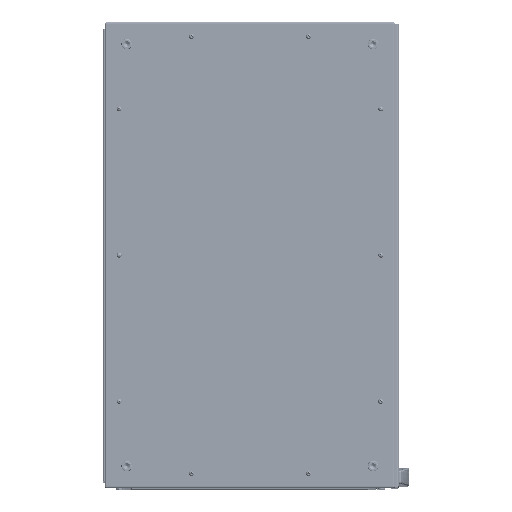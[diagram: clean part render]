
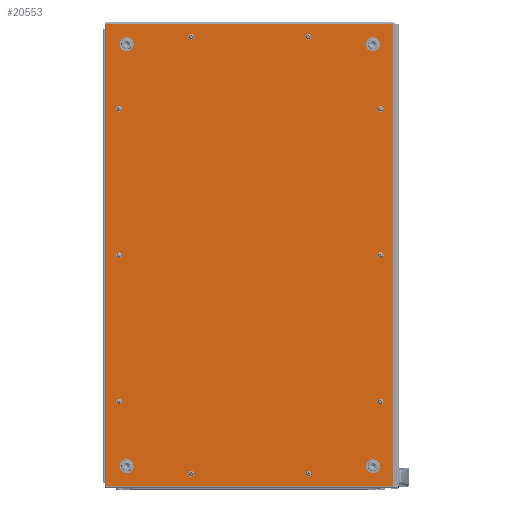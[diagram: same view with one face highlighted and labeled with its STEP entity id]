
A CAD part, top view. The second image highlights one B-rep face of the part: STEP entity #20553.
In plain terms, the highlighted planar face has unit normal (0, 0, 1).
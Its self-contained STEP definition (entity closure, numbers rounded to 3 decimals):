
#20553=ADVANCED_FACE('',(#119242,#119244,#119246,#119248,#119250,#119252,#119254,
#119256,#119258,#119260,#119262,#119264,#119266,#119268,#119270),#119272,.T.);
#119242=FACE_BOUND('',#119243,.T.);
#119243=EDGE_LOOP('',(#195650,#195651,#195652,#195653));
#119244=FACE_BOUND('',#119245,.T.);
#119245=EDGE_LOOP('',(#195654));
#119246=FACE_BOUND('',#119247,.T.);
#119247=EDGE_LOOP('',(#195655));
#119248=FACE_BOUND('',#119249,.T.);
#119249=EDGE_LOOP('',(#195656));
#119250=FACE_BOUND('',#119251,.T.);
#119251=EDGE_LOOP('',(#195657));
#119252=FACE_BOUND('',#119253,.T.);
#119253=EDGE_LOOP('',(#195658));
#119254=FACE_BOUND('',#119255,.T.);
#119255=EDGE_LOOP('',(#195659));
#119256=FACE_BOUND('',#119257,.T.);
#119257=EDGE_LOOP('',(#195660));
#119258=FACE_BOUND('',#119259,.T.);
#119259=EDGE_LOOP('',(#195661));
#119260=FACE_BOUND('',#119261,.T.);
#119261=EDGE_LOOP('',(#195662));
#119262=FACE_BOUND('',#119263,.T.);
#119263=EDGE_LOOP('',(#195663));
#119264=FACE_BOUND('',#119265,.T.);
#119265=EDGE_LOOP('',(#195664));
#119266=FACE_BOUND('',#119267,.T.);
#119267=EDGE_LOOP('',(#195665));
#119268=FACE_BOUND('',#119269,.T.);
#119269=EDGE_LOOP('',(#195666));
#119270=FACE_BOUND('',#119271,.T.);
#119271=EDGE_LOOP('',(#195667));
#119272=PLANE('',#119273);
#119273=AXIS2_PLACEMENT_3D('',#119274,#119275,#119276);
#119274=CARTESIAN_POINT('',(0.,0.,1.5));
#119275=DIRECTION('',(0.,0.,1.));
#119276=DIRECTION('',(0.,1.,0.));
#195650=ORIENTED_EDGE('',*,*,#230712,.T.);
#195651=ORIENTED_EDGE('',*,*,#230713,.T.);
#195652=ORIENTED_EDGE('',*,*,#230714,.T.);
#195653=ORIENTED_EDGE('',*,*,#230715,.T.);
#195654=ORIENTED_EDGE('',*,*,#230691,.T.);
#195655=ORIENTED_EDGE('',*,*,#230690,.T.);
#195656=ORIENTED_EDGE('',*,*,#230689,.T.);
#195657=ORIENTED_EDGE('',*,*,#230688,.T.);
#195658=ORIENTED_EDGE('',*,*,#230687,.T.);
#195659=ORIENTED_EDGE('',*,*,#230686,.T.);
#195660=ORIENTED_EDGE('',*,*,#230682,.T.);
#195661=ORIENTED_EDGE('',*,*,#230683,.T.);
#195662=ORIENTED_EDGE('',*,*,#230684,.T.);
#195663=ORIENTED_EDGE('',*,*,#230685,.T.);
#195664=ORIENTED_EDGE('',*,*,#230680,.T.);
#195665=ORIENTED_EDGE('',*,*,#230679,.T.);
#195666=ORIENTED_EDGE('',*,*,#230678,.T.);
#195667=ORIENTED_EDGE('',*,*,#230677,.T.);
#230677=EDGE_CURVE('',#281408,#281408,#281409,.F.);
#230678=EDGE_CURVE('',#281410,#281410,#281411,.F.);
#230679=EDGE_CURVE('',#281412,#281412,#281413,.F.);
#230680=EDGE_CURVE('',#281414,#281414,#281415,.F.);
#230682=EDGE_CURVE('',#281418,#281418,#281419,.F.);
#230683=EDGE_CURVE('',#281420,#281420,#281421,.F.);
#230684=EDGE_CURVE('',#281422,#281422,#281423,.F.);
#230685=EDGE_CURVE('',#281424,#281424,#281425,.F.);
#230686=EDGE_CURVE('',#281426,#281426,#281427,.F.);
#230687=EDGE_CURVE('',#281428,#281428,#281429,.F.);
#230688=EDGE_CURVE('',#281430,#281430,#281431,.F.);
#230689=EDGE_CURVE('',#281432,#281432,#281433,.F.);
#230690=EDGE_CURVE('',#281434,#281434,#281435,.F.);
#230691=EDGE_CURVE('',#281436,#281436,#281437,.F.);
#230712=EDGE_CURVE('',#281474,#281475,#281476,.T.);
#230713=EDGE_CURVE('',#281475,#281477,#281478,.T.);
#230714=EDGE_CURVE('',#281477,#281479,#281480,.T.);
#230715=EDGE_CURVE('',#281479,#281474,#281481,.T.);
#281408=VERTEX_POINT('',#397105);
#281409=CIRCLE('',#397106,3.75);
#281410=VERTEX_POINT('',#397110);
#281411=CIRCLE('',#397111,3.75);
#281412=VERTEX_POINT('',#397115);
#281413=CIRCLE('',#397116,3.75);
#281414=VERTEX_POINT('',#397120);
#281415=CIRCLE('',#397121,3.75);
#281418=VERTEX_POINT('',#397130);
#281419=CIRCLE('',#397131,7.);
#281420=VERTEX_POINT('',#397135);
#281421=CIRCLE('',#397136,7.);
#281422=VERTEX_POINT('',#397140);
#281423=CIRCLE('',#397141,7.);
#281424=VERTEX_POINT('',#397145);
#281425=CIRCLE('',#397146,7.);
#281426=VERTEX_POINT('',#397150);
#281427=CIRCLE('',#397151,3.75);
#281428=VERTEX_POINT('',#397155);
#281429=CIRCLE('',#397156,3.75);
#281430=VERTEX_POINT('',#397160);
#281431=CIRCLE('',#397161,3.75);
#281432=VERTEX_POINT('',#397165);
#281433=CIRCLE('',#397166,3.75);
#281434=VERTEX_POINT('',#397170);
#281435=CIRCLE('',#397171,3.75);
#281436=VERTEX_POINT('',#397175);
#281437=CIRCLE('',#397176,3.75);
#281474=VERTEX_POINT('',#397392);
#281475=VERTEX_POINT('',#397393);
#281476=LINE('',#397394,#397395);
#281477=VERTEX_POINT('',#397397);
#281478=LINE('',#397398,#397399);
#281479=VERTEX_POINT('',#397401);
#281480=LINE('',#397402,#397403);
#281481=LINE('',#397405,#397406);
#397105=CARTESIAN_POINT('',(-223.5,253.75,1.5));
#397106=AXIS2_PLACEMENT_3D('',#397107,#397108,#397109);
#397107=CARTESIAN_POINT('',(-223.5,250.,1.5));
#397108=DIRECTION('',(0.,0.,1.));
#397109=DIRECTION('',(0.,1.,0.));
#397110=CARTESIAN_POINT('',(223.5,-246.25,1.5));
#397111=AXIS2_PLACEMENT_3D('',#397112,#397113,#397114);
#397112=CARTESIAN_POINT('',(223.5,-250.,1.5));
#397113=DIRECTION('',(0.,0.,1.));
#397114=DIRECTION('',(0.,1.,0.));
#397115=CARTESIAN_POINT('',(223.5,253.75,1.5));
#397116=AXIS2_PLACEMENT_3D('',#397117,#397118,#397119);
#397117=CARTESIAN_POINT('',(223.5,250.,1.5));
#397118=DIRECTION('',(0.,0.,1.));
#397119=DIRECTION('',(0.,1.,0.));
#397120=CARTESIAN_POINT('',(-223.5,-246.25,1.5));
#397121=AXIS2_PLACEMENT_3D('',#397122,#397123,#397124);
#397122=CARTESIAN_POINT('',(-223.5,-250.,1.5));
#397123=DIRECTION('',(0.,0.,1.));
#397124=DIRECTION('',(0.,1.,0.));
#397130=CARTESIAN_POINT('',(210.5,367.5,1.5));
#397131=AXIS2_PLACEMENT_3D('',#397132,#397133,#397134);
#397132=CARTESIAN_POINT('',(210.5,360.5,1.5));
#397133=DIRECTION('',(0.,0.,1.));
#397134=DIRECTION('',(0.,1.,0.));
#397135=CARTESIAN_POINT('',(-210.5,-353.5,1.5));
#397136=AXIS2_PLACEMENT_3D('',#397137,#397138,#397139);
#397137=CARTESIAN_POINT('',(-210.5,-360.5,1.5));
#397138=DIRECTION('',(0.,0.,1.));
#397139=DIRECTION('',(0.,1.,0.));
#397140=CARTESIAN_POINT('',(-210.5,367.5,1.5));
#397141=AXIS2_PLACEMENT_3D('',#397142,#397143,#397144);
#397142=CARTESIAN_POINT('',(-210.5,360.5,1.5));
#397143=DIRECTION('',(0.,0.,1.));
#397144=DIRECTION('',(0.,1.,0.));
#397145=CARTESIAN_POINT('',(210.5,-353.5,1.5));
#397146=AXIS2_PLACEMENT_3D('',#397147,#397148,#397149);
#397147=CARTESIAN_POINT('',(210.5,-360.5,1.5));
#397148=DIRECTION('',(0.,0.,1.));
#397149=DIRECTION('',(0.,1.,0.));
#397150=CARTESIAN_POINT('',(-223.5,3.75,1.5));
#397151=AXIS2_PLACEMENT_3D('',#397152,#397153,#397154);
#397152=CARTESIAN_POINT('',(-223.5,0.,1.5));
#397153=DIRECTION('',(0.,0.,1.));
#397154=DIRECTION('',(0.,1.,0.));
#397155=CARTESIAN_POINT('',(223.5,3.75,1.5));
#397156=AXIS2_PLACEMENT_3D('',#397157,#397158,#397159);
#397157=CARTESIAN_POINT('',(223.5,0.,1.5));
#397158=DIRECTION('',(0.,0.,1.));
#397159=DIRECTION('',(0.,1.,0.));
#397160=CARTESIAN_POINT('',(-100.,-369.75,1.5));
#397161=AXIS2_PLACEMENT_3D('',#397162,#397163,#397164);
#397162=CARTESIAN_POINT('',(-100.,-373.5,1.5));
#397163=DIRECTION('',(0.,0.,1.));
#397164=DIRECTION('',(0.,1.,0.));
#397165=CARTESIAN_POINT('',(100.,377.25,1.5));
#397166=AXIS2_PLACEMENT_3D('',#397167,#397168,#397169);
#397167=CARTESIAN_POINT('',(100.,373.5,1.5));
#397168=DIRECTION('',(0.,0.,1.));
#397169=DIRECTION('',(0.,1.,0.));
#397170=CARTESIAN_POINT('',(-100.,377.25,1.5));
#397171=AXIS2_PLACEMENT_3D('',#397172,#397173,#397174);
#397172=CARTESIAN_POINT('',(-100.,373.5,1.5));
#397173=DIRECTION('',(0.,0.,1.));
#397174=DIRECTION('',(0.,1.,0.));
#397175=CARTESIAN_POINT('',(100.,-369.75,1.5));
#397176=AXIS2_PLACEMENT_3D('',#397177,#397178,#397179);
#397177=CARTESIAN_POINT('',(100.,-373.5,1.5));
#397178=DIRECTION('',(0.,0.,1.));
#397179=DIRECTION('',(0.,1.,0.));
#397392=CARTESIAN_POINT('',(245.2,395.2,1.5));
#397393=CARTESIAN_POINT('',(-245.2,395.2,1.5));
#397394=CARTESIAN_POINT('',(245.2,395.2,1.5));
#397395=VECTOR('',#397396,1.);
#397396=DIRECTION('',(-1.,0.,0.));
#397397=CARTESIAN_POINT('',(-245.2,-395.2,1.5));
#397398=CARTESIAN_POINT('',(-245.2,395.2,1.5));
#397399=VECTOR('',#397400,1.);
#397400=DIRECTION('',(0.,-1.,0.));
#397401=CARTESIAN_POINT('',(245.2,-395.2,1.5));
#397402=CARTESIAN_POINT('',(-245.2,-395.2,1.5));
#397403=VECTOR('',#397404,1.);
#397404=DIRECTION('',(1.,0.,0.));
#397405=CARTESIAN_POINT('',(245.2,-395.2,1.5));
#397406=VECTOR('',#397407,1.);
#397407=DIRECTION('',(0.,1.,0.));
